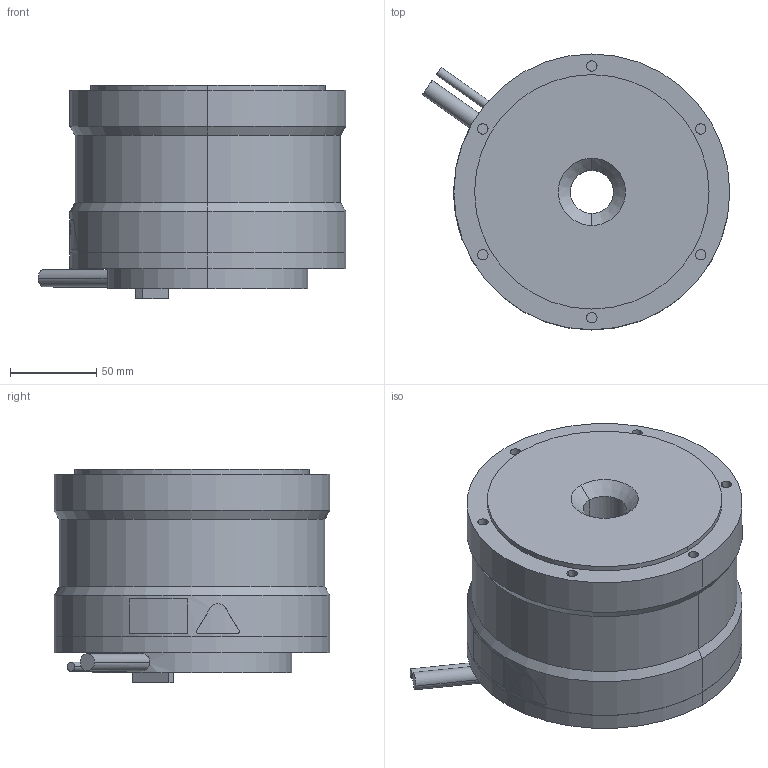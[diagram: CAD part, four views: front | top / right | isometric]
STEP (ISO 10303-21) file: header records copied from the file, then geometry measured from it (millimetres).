
FILE_DESCRIPTION (( 'STEP AP203' ), '1' );
FILE_NAME ('sgm7d_18g_c4_.STEP', '2016-02-22T08:13:41', ( '' ), ( '' ), 'SwSTEP 2.0', 'SolidWorks 2010', '' );
FILE_SCHEMA (( 'CONFIG_CONTROL_DESIGN' ));
Length unit declared in the file: millimetre
Products named in the file (1): sgm7d_18g_c4_
Bounding box: 178.36 x 160 x 124 mm (x, y, z)
Volume: 2121318.2 mm3; surface area: 114226.8 mm2
Topology: 1 solids, 1 shells, 188 faces, 425 edges, 280 vertices
Faces by surface type: cylinder 106, plane 71, cone 6, bspline 5
Entity records: 5792 total; most frequent: CARTESIAN_POINT 1327, DIRECTION 985, ORIENTED_EDGE 850, EDGE_CURVE 425, AXIS2_PLACEMENT_3D 396, VERTEX_POINT 280, EDGE_LOOP 231, CIRCLE 212
